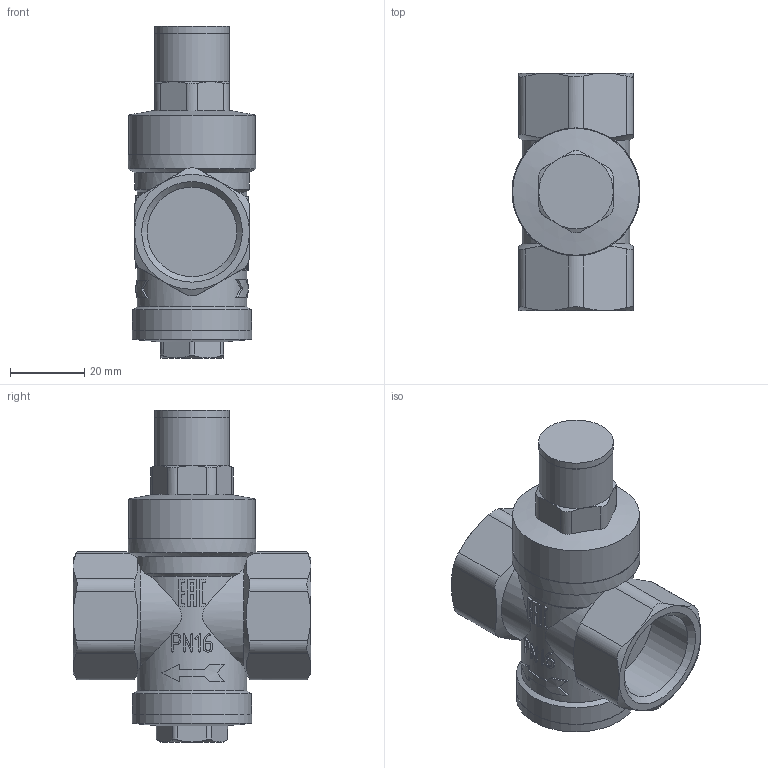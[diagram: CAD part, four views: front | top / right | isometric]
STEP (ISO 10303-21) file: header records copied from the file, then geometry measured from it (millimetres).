
FILE_DESCRIPTION(('STEP AP242'), '1');
FILE_NAME('VT.083.N.05', '', ('UNSPECIFIED'), ('UNSPECIFIED'), 'C3D Converter', 'C3D Toolkit', '');
FILE_SCHEMA(('AP242_MANAGED_MODEL_BASED_3D_ENGINEERING_MIM_LF { 1 0 10303 442 1 1 4 }'));
Length unit declared in the file: millimetre
Bounding box: 34.5 x 64 x 89.5 mm (x, y, z)
Volume: 73411.5 mm3; surface area: 16476.8 mm2
Topology: 1 solids, 1 shells, 389 faces, 1076 edges, 713 vertices
Faces by surface type: plane 172, extrusion 123, cylinder 59, cone 35
Full cylindrical faces by diameter (mm): 20 x1, 20.1 x1, 24.118 x2, 29.5 x1, 32.1 x1, 32.2 x1, 34.2 x1, 34.5 x1
Entity records: 21188 total; most frequent: CARTESIAN_POINT 12116, ORIENTED_EDGE 2098, DIRECTION 1403, EDGE_CURVE 1049, VERTEX_POINT 701, VECTOR 553, B_SPLINE_CURVE_WITH_KNOTS 524, LINE 430
